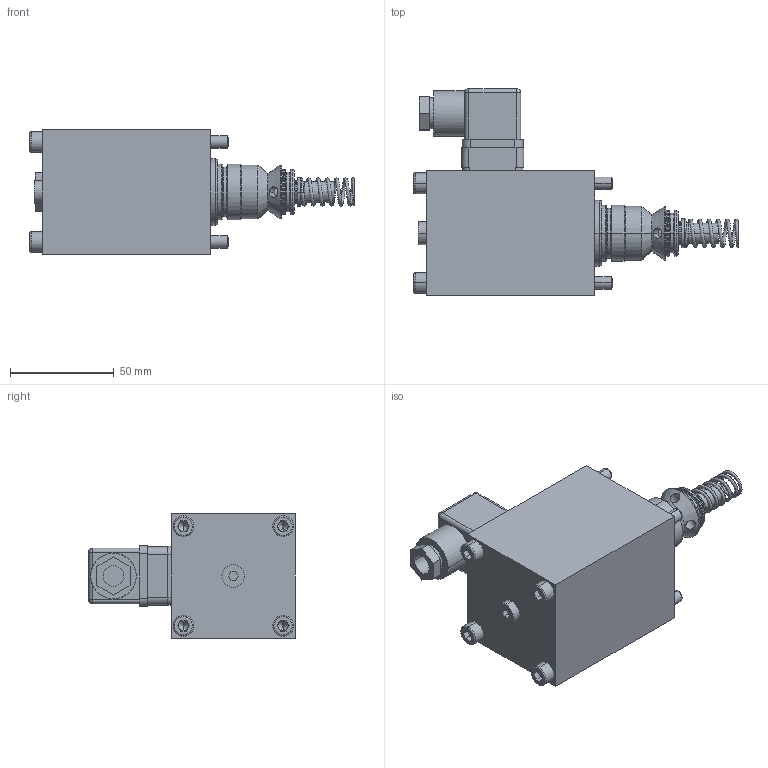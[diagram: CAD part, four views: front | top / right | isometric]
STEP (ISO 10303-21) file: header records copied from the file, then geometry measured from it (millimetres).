
FILE_DESCRIPTION (( 'STEP AP214' ), '1' );
FILE_NAME ('.2210-...STEP', '2021-08-17T09:07:21', ( '' ), ( '' ), 'SwSTEP 2.0', 'SolidWorks 2020', '' );
FILE_SCHEMA (( 'AUTOMOTIVE_DESIGN' ));
Length unit declared in the file: millimetre
Products named in the file (1): .2210-..
Bounding box: 156.46 x 99.8 x 60 mm (x, y, z)
Volume: 352420.4 mm3; surface area: 42797.2 mm2
Topology: 4 solids, 4 shells, 276 faces, 611 edges, 363 vertices
Faces by surface type: plane 119, cylinder 87, cone 36, torus 24, bspline 10
Entity records: 15286 total; most frequent: CARTESIAN_POINT 6185, DIRECTION 1364, ORIENTED_EDGE 1198, EDGE_CURVE 599, AXIS2_PLACEMENT_3D 525, VERTEX_POINT 363, LINE 314, VECTOR 314
